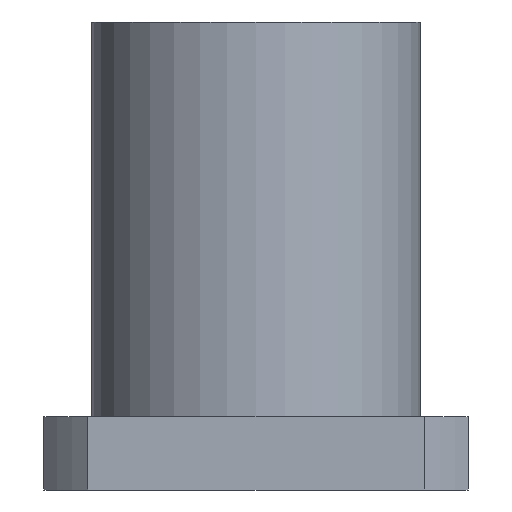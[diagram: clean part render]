
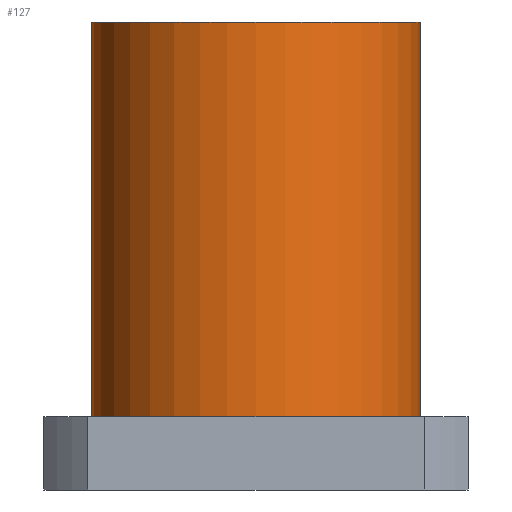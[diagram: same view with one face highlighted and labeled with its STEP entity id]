
A CAD part, front view. The second image highlights one B-rep face of the part: STEP entity #127.
In plain terms, the highlighted cylindrical face has radius 22.5 mm (diameter 45 mm), a partial arc.
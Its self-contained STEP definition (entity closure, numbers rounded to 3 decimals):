
#86=CARTESIAN_POINT('',(-14.031,3.294,0.0));
#87=DIRECTION('',(0.0,0.0,1.0));
#88=DIRECTION('',(-1.0,0.0,0.0));
#89=AXIS2_PLACEMENT_3D('',#86,#87,#88);
#90=CYLINDRICAL_SURFACE('',#89,22.5);
#91=CARTESIAN_POINT('',(-36.531,3.294,10.0));
#92=VERTEX_POINT('',#91);
#93=CARTESIAN_POINT('',(-36.531,3.294,64.0));
#94=VERTEX_POINT('',#93);
#95=CARTESIAN_POINT('',(-36.531,3.294,10.0));
#96=DIRECTION('',(0.0,0.0,1.0));
#97=VECTOR('',#96,54.0);
#98=LINE('',#95,#97);
#99=EDGE_CURVE('',#92,#94,#98,.T.);
#100=ORIENTED_EDGE('',*,*,#99,.F.);
#101=CARTESIAN_POINT('',(8.469,3.294,10.0));
#102=VERTEX_POINT('',#101);
#103=CARTESIAN_POINT('',(-14.031,3.294,10.0));
#104=DIRECTION('',(0.0,0.0,-1.0));
#105=DIRECTION('',(-1.0,0.0,0.0));
#106=AXIS2_PLACEMENT_3D('',#103,#104,#105);
#107=CIRCLE('',#106,22.5);
#108=EDGE_CURVE('',#102,#92,#107,.T.);
#109=ORIENTED_EDGE('',*,*,#108,.F.);
#110=CARTESIAN_POINT('',(8.469,3.294,64.0));
#111=VERTEX_POINT('',#110);
#112=CARTESIAN_POINT('',(8.469,3.294,64.0));
#113=DIRECTION('',(0.0,0.0,-1.0));
#114=VECTOR('',#113,54.0);
#115=LINE('',#112,#114);
#116=EDGE_CURVE('',#111,#102,#115,.T.);
#117=ORIENTED_EDGE('',*,*,#116,.F.);
#118=CARTESIAN_POINT('',(-14.031,3.294,64.0));
#119=DIRECTION('',(0.0,0.0,-1.0));
#120=DIRECTION('',(-1.0,0.0,0.0));
#121=AXIS2_PLACEMENT_3D('',#118,#119,#120);
#122=CIRCLE('',#121,22.5);
#123=EDGE_CURVE('',#111,#94,#122,.T.);
#124=ORIENTED_EDGE('',*,*,#123,.T.);
#125=EDGE_LOOP('',(#100,#109,#117,#124));
#126=FACE_OUTER_BOUND('',#125,.T.);
#127=ADVANCED_FACE('',(#126),#90,.T.);
